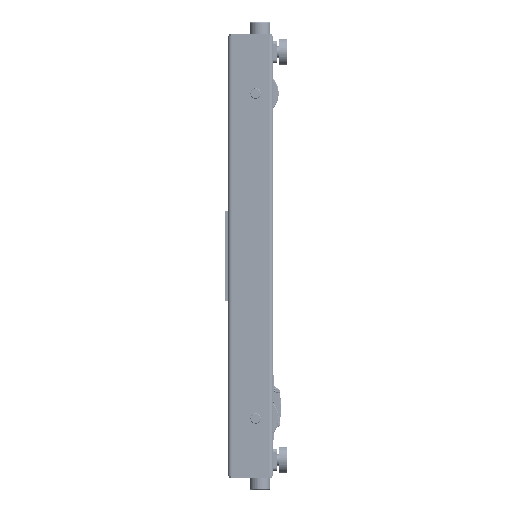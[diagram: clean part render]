
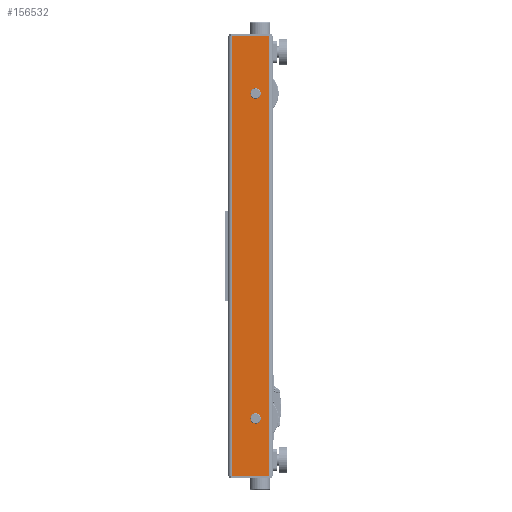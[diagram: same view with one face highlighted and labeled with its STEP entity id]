
A CAD part, left-side view. The second image highlights one B-rep face of the part: STEP entity #156532.
In plain terms, the highlighted planar face has unit normal (-1, 0, 0).
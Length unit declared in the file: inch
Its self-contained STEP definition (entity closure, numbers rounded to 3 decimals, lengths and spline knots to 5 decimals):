
#5228 = VERTEX_POINT ( 'NONE', #124550 ) ;
#5391 = CARTESIAN_POINT ( 'NONE',  ( 0., 1.636, 50.563 ) ) ;
#7920 = EDGE_CURVE ( 'NONE', #127683, #27749, #123327, .T. ) ;
#10963 = LINE ( 'NONE', #203260, #84147 ) ;
#14713 = CIRCLE ( 'NONE', #17990, 0.69 ) ;
#16094 = AXIS2_PLACEMENT_3D ( 'NONE', #122120, #42302, #123160 ) ;
#16945 = DIRECTION ( 'NONE',  ( 1., 0., 0. ) ) ;
#17692 = ORIENTED_EDGE ( 'NONE', *, *, #124400, .T. ) ;
#17990 = AXIS2_PLACEMENT_3D ( 'NONE', #183963, #154501, #199764 ) ;
#19008 = DIRECTION ( 'NONE',  ( 0., 0., -1. ) ) ;
#19080 = EDGE_LOOP ( 'NONE', ( #185640, #187365, #75658, #117474 ) ) ;
#20486 = FACE_OUTER_BOUND ( 'NONE', #19080, .T. ) ;
#22556 = CARTESIAN_POINT ( 'NONE',  ( 0., 0.5, 58.125 ) ) ;
#23467 = EDGE_LOOP ( 'NONE', ( #17692, #115267 ) ) ;
#27749 = VERTEX_POINT ( 'NONE', #5391 ) ;
#27966 = EDGE_CURVE ( 'NONE', #27749, #127683, #14713, .T. ) ;
#30456 = CARTESIAN_POINT ( 'NONE',  ( 0., 0.5, 0. ) ) ;
#32918 = CARTESIAN_POINT ( 'NONE',  ( 0., 2.326, 7.563 ) ) ;
#37337 = DIRECTION ( 'NONE',  ( 1., 0., 0. ) ) ;
#37345 = CARTESIAN_POINT ( 'NONE',  ( 0., 0.5, 58.125 ) ) ;
#40354 = VECTOR ( 'NONE', #85134, 39.37008 ) ;
#40749 = ORIENTED_EDGE ( 'NONE', *, *, #7920, .T. ) ;
#42302 = DIRECTION ( 'NONE',  ( 1., 0., 0. ) ) ;
#44382 = DIRECTION ( 'NONE',  ( 0., -1., 0. ) ) ;
#45666 = DIRECTION ( 'NONE',  ( 0., -1., 0. ) ) ;
#46419 = VECTOR ( 'NONE', #44382, 39.37008 ) ;
#48897 = VECTOR ( 'NONE', #132901, 39.37008 ) ;
#51748 = VERTEX_POINT ( 'NONE', #192234 ) ;
#56344 = VERTEX_POINT ( 'NONE', #178805 ) ;
#63282 = CARTESIAN_POINT ( 'NONE',  ( 0., 2.326, 7.563 ) ) ;
#68914 = LINE ( 'NONE', #37345, #48897 ) ;
#70955 = FACE_BOUND ( 'NONE', #114569, .T. ) ;
#75658 = ORIENTED_EDGE ( 'NONE', *, *, #139705, .F. ) ;
#82617 = DIRECTION ( 'NONE',  ( 0., 1., 0. ) ) ;
#84147 = VECTOR ( 'NONE', #45666, 39.37008 ) ;
#85134 = DIRECTION ( 'NONE',  ( 0., 0., -1. ) ) ;
#88591 = CARTESIAN_POINT ( 'NONE',  ( 0., 0.5, 58.125 ) ) ;
#88805 = CARTESIAN_POINT ( 'NONE',  ( 0., 0.5, 58.125 ) ) ;
#100064 = EDGE_CURVE ( 'NONE', #56344, #5228, #132339, .T. ) ;
#101155 = AXIS2_PLACEMENT_3D ( 'NONE', #22556, #37337, #82617 ) ;
#101772 = ORIENTED_EDGE ( 'NONE', *, *, #27966, .T. ) ;
#103960 = VERTEX_POINT ( 'NONE', #88805 ) ;
#107461 = LINE ( 'NONE', #88591, #46419 ) ;
#107515 = CARTESIAN_POINT ( 'NONE',  ( 0., 3.016, 50.563 ) ) ;
#110002 = EDGE_CURVE ( 'NONE', #103960, #206427, #68914, .T. ) ;
#112780 = DIRECTION ( 'NONE',  ( 0., 0., -1. ) ) ;
#114569 = EDGE_LOOP ( 'NONE', ( #40749, #101772 ) ) ;
#115267 = ORIENTED_EDGE ( 'NONE', *, *, #117015, .T. ) ;
#116640 = CARTESIAN_POINT ( 'NONE',  ( 0., 5.5, 58.125 ) ) ;
#117015 = EDGE_CURVE ( 'NONE', #51748, #160810, #159340, .T. ) ;
#117219 = CIRCLE ( 'NONE', #123952, 0.69 ) ;
#117474 = ORIENTED_EDGE ( 'NONE', *, *, #100064, .T. ) ;
#118189 = PLANE ( 'NONE',  #101155 ) ;
#122120 = CARTESIAN_POINT ( 'NONE',  ( 0., 2.326, 50.563 ) ) ;
#123160 = DIRECTION ( 'NONE',  ( 0., 1., 0. ) ) ;
#123327 = CIRCLE ( 'NONE', #16094, 0.69 ) ;
#123952 = AXIS2_PLACEMENT_3D ( 'NONE', #32918, #190522, #112780 ) ;
#124400 = EDGE_CURVE ( 'NONE', #160810, #51748, #117219, .T. ) ;
#124550 = CARTESIAN_POINT ( 'NONE',  ( 0., 5.5, 0. ) ) ;
#127683 = VERTEX_POINT ( 'NONE', #107515 ) ;
#132339 = LINE ( 'NONE', #116640, #40354 ) ;
#132901 = DIRECTION ( 'NONE',  ( 0., 0., -1. ) ) ;
#139705 = EDGE_CURVE ( 'NONE', #56344, #103960, #107461, .T. ) ;
#149274 = AXIS2_PLACEMENT_3D ( 'NONE', #63282, #16945, #19008 ) ;
#150697 = FACE_BOUND ( 'NONE', #23467, .T. ) ;
#154501 = DIRECTION ( 'NONE',  ( 1., 0., 0. ) ) ;
#156532 = ADVANCED_FACE ( 'NONE', ( #150697, #70955, #20486 ), #118189, .F. ) ;
#159340 = CIRCLE ( 'NONE', #149274, 0.69 ) ;
#160810 = VERTEX_POINT ( 'NONE', #186816 ) ;
#178805 = CARTESIAN_POINT ( 'NONE',  ( 0., 5.5, 58.125 ) ) ;
#183963 = CARTESIAN_POINT ( 'NONE',  ( 0., 2.326, 50.563 ) ) ;
#185640 = ORIENTED_EDGE ( 'NONE', *, *, #204636, .T. ) ;
#186816 = CARTESIAN_POINT ( 'NONE',  ( 0., 2.326, 6.873 ) ) ;
#187365 = ORIENTED_EDGE ( 'NONE', *, *, #110002, .F. ) ;
#190522 = DIRECTION ( 'NONE',  ( 1., 0., 0. ) ) ;
#192234 = CARTESIAN_POINT ( 'NONE',  ( 0., 2.326, 8.253 ) ) ;
#199764 = DIRECTION ( 'NONE',  ( 0., 1., 0. ) ) ;
#203260 = CARTESIAN_POINT ( 'NONE',  ( 0., 0.5, 0. ) ) ;
#204636 = EDGE_CURVE ( 'NONE', #5228, #206427, #10963, .T. ) ;
#206427 = VERTEX_POINT ( 'NONE', #30456 ) ;
